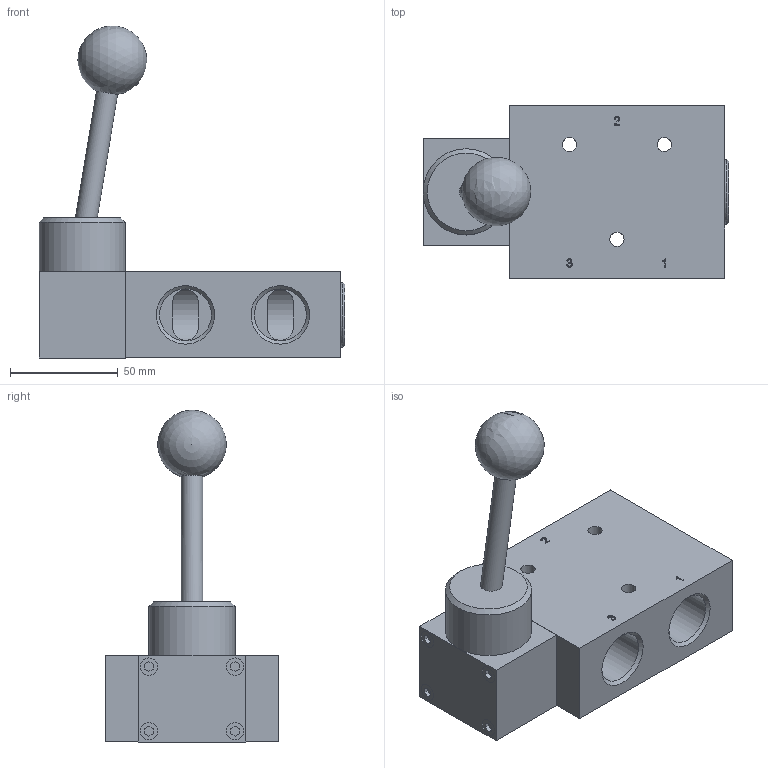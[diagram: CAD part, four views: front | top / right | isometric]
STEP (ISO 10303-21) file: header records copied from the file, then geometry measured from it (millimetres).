
FILE_DESCRIPTION(/* description */ ('Unknown'),/* implementation_level */ '2;1');
FILE_NAME(/* name */ 'HVR 320 181',/* time_stamp */ '2017-12-19T06:05:23+01:00',/* author */ ('Unknown'),/* organization */ ('Unknown'),/* preprocessor_version */ 'ST-DEVELOPER v16.7',/* originating_system */ 'DEX',/* authorisation */ $);
FILE_SCHEMA (('AUTOMOTIVE_DESIGN {1 0 10303 214 3 1 1}'));
Length unit declared in the file: millimetre
Products named in the file (2): HVR 320 181
Assembly tree (1 placements, depth 2):
  HVR 320 181
    HVR 320 181
Bounding box: 142 x 80 x 154.1 mm (x, y, z)
Volume: 336948.5 mm3; surface area: 70752.4 mm2
Topology: 3 solids, 3 shells, 176 faces, 435 edges, 285 vertices
Faces by surface type: plane 91, cylinder 44, cone 23, bspline 16, sphere 1, torus 1
Full cylindrical faces by diameter (mm): 2 x1, 4.134 x8, 6.6 x3, 8 x4, 10 x1, 22 x1, 24 x1, 24.117 x6, 28 x5, 28.05 x1, 28.5 x3, 30 x1, 40 x1
Entity records: 6655 total; most frequent: CARTESIAN_POINT 1740, DIRECTION 722, ORIENTED_EDGE 680, EDGE_CURVE 340, FACE_BOUND 278, EDGE_LOOP 274, AXIS2_PLACEMENT_3D 258, VERTEX_POINT 256
